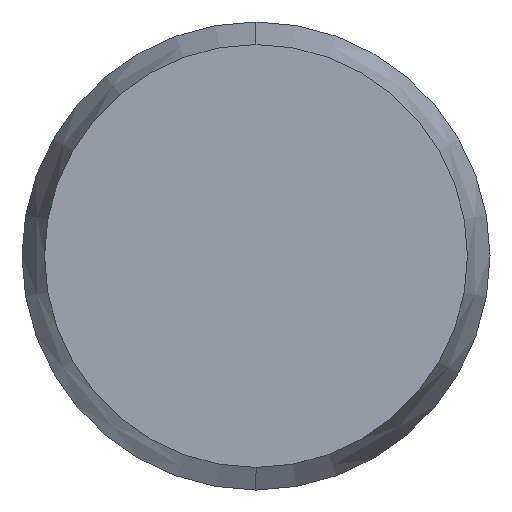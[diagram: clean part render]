
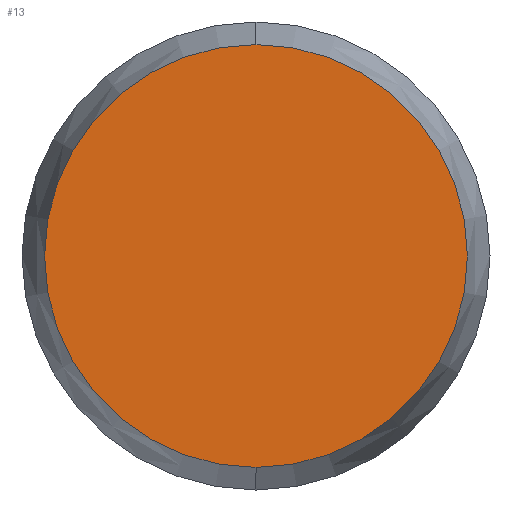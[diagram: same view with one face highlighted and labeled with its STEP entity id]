
A CAD part, left-side view. The second image highlights one B-rep face of the part: STEP entity #13.
In plain terms, the highlighted planar face has unit normal (-1, 0, 0).
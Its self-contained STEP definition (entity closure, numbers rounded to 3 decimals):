
#10 = ORIENTED_EDGE ( 'NONE', *, *, #20, .F. ) ;
#11 = EDGE_LOOP ( 'NONE', ( #12, #10 ) ) ;
#12 = ORIENTED_EDGE ( 'NONE', *, *, #44, .F. ) ;
#13 = ADVANCED_FACE ( 'NONE', ( #135 ), #134, .F. ) ;
#20 = EDGE_CURVE ( 'NONE', #34, #33, #223, .T. ) ;
#33 = VERTEX_POINT ( 'NONE', #204 ) ;
#34 = VERTEX_POINT ( 'NONE', #200 ) ;
#44 = EDGE_CURVE ( 'NONE', #33, #34, #83, .T. ) ;
#79 = DIRECTION ( 'NONE',  ( 0., 0., -1. ) ) ;
#80 = DIRECTION ( 'NONE',  ( 1., 0., 0. ) ) ;
#81 = CARTESIAN_POINT ( 'NONE',  ( -2., 0., 0. ) ) ;
#82 = AXIS2_PLACEMENT_3D ( 'NONE', #81, #80, #79 ) ;
#83 = CIRCLE ( 'NONE', #82, 1.129 ) ;
#128 = DIRECTION ( 'NONE',  ( 0., 0., -1. ) ) ;
#129 = DIRECTION ( 'NONE',  ( 1., 0., 0. ) ) ;
#130 = CARTESIAN_POINT ( 'NONE',  ( -2., 0., 0. ) ) ;
#133 = AXIS2_PLACEMENT_3D ( 'NONE', #130, #129, #128 ) ;
#134 = PLANE ( 'NONE',  #133 ) ;
#135 = FACE_OUTER_BOUND ( 'NONE', #11, .T. ) ;
#200 = CARTESIAN_POINT ( 'NONE',  ( -2., 0., -1.129 ) ) ;
#204 = CARTESIAN_POINT ( 'NONE',  ( -2., 0., 1.129 ) ) ;
#219 = DIRECTION ( 'NONE',  ( 0., 0., -1. ) ) ;
#220 = DIRECTION ( 'NONE',  ( 1., 0., 0. ) ) ;
#221 = CARTESIAN_POINT ( 'NONE',  ( -2., 0., 0. ) ) ;
#222 = AXIS2_PLACEMENT_3D ( 'NONE', #221, #220, #219 ) ;
#223 = CIRCLE ( 'NONE', #222, 1.129 ) ;
